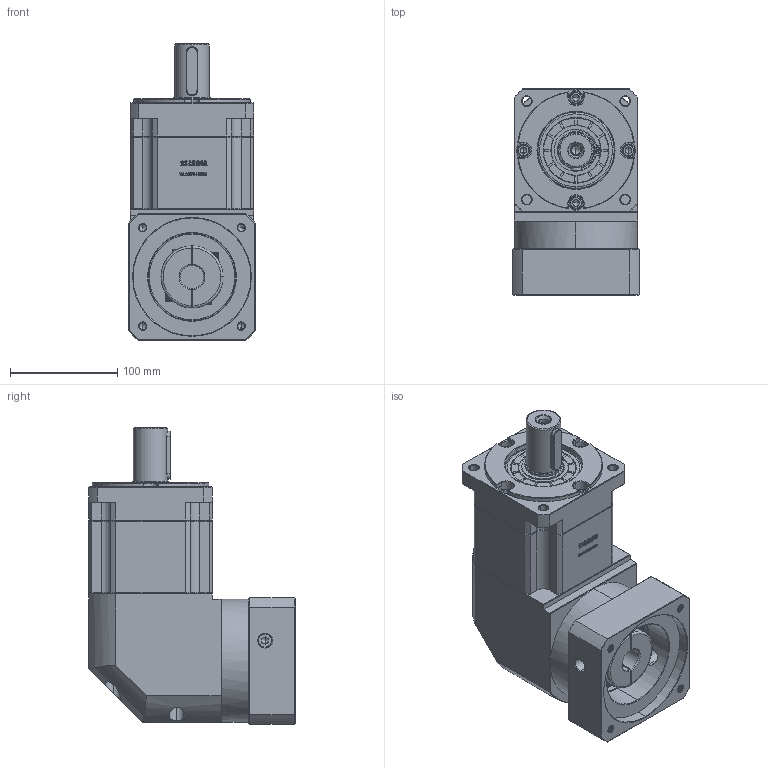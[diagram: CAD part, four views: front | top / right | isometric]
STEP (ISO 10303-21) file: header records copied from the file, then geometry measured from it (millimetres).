
FILE_DESCRIPTION (( 'STEP AP214' ), '1' );
FILE_NAME ('ZBR115A-D32-L2-22-110-130-M8.step', '2023-03-03T05:01:55', ( '' ), ( 'Microsoft' ), 'SwSTEP 2.0', 'SolidWorks 2016', '' );
FILE_SCHEMA (( 'AUTOMOTIVE_DESIGN' ));
Length unit declared in the file: millimetre
Products named in the file (1): ZBR115A-D32-L2-22-110-130-M8
Bounding box: 118 x 192.4 x 276.5 mm (x, y, z)
Volume: 3280637.3 mm3; surface area: 260361.8 mm2
Topology: 6 solids, 6 shells, 2983 faces, 7905 edges, 5068 vertices
Faces by surface type: plane 1559, bspline 607, cylinder 439, cone 370, torus 8
Entity records: 162015 total; most frequent: CARTESIAN_POINT 60095, ORIENTED_EDGE 15750, DIRECTION 11921, EDGE_CURVE 7875, LINE 5307, VECTOR 5307, VERTEX_POINT 5068, AXIS2_PLACEMENT_3D 3307
